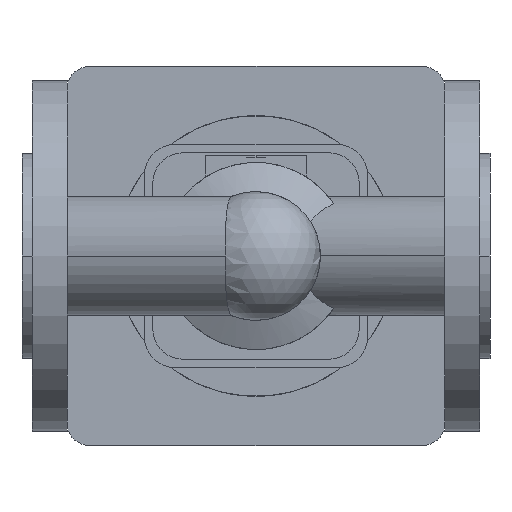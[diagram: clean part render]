
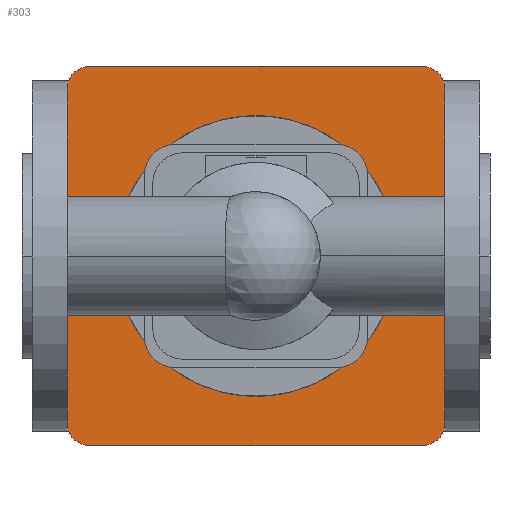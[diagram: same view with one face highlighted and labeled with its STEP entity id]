
A CAD part, front view. The second image highlights one B-rep face of the part: STEP entity #303.
In plain terms, the highlighted planar face has unit normal (0, -1, 0).
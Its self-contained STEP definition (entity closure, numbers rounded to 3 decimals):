
#303 = ADVANCED_FACE( '', ( #729, #730 ), #731, .F. );
#729 = FACE_OUTER_BOUND( '', #1181, .T. );
#730 = FACE_BOUND( '', #1182, .T. );
#731 = PLANE( '', #1183 );
#1181 = EDGE_LOOP( '', ( #2652, #2653, #2654, #2655, #2656, #2657, #2658, #2659 ) );
#1182 = EDGE_LOOP( '', ( #2660, #2661 ) );
#1183 = AXIS2_PLACEMENT_3D( '', #2662, #2663, #2664 );
#2652 = ORIENTED_EDGE( '', *, *, #3283, .F. );
#2653 = ORIENTED_EDGE( '', *, *, #3284, .F. );
#2654 = ORIENTED_EDGE( '', *, *, #3285, .F. );
#2655 = ORIENTED_EDGE( '', *, *, #3286, .F. );
#2656 = ORIENTED_EDGE( '', *, *, #3287, .F. );
#2657 = ORIENTED_EDGE( '', *, *, #3288, .F. );
#2658 = ORIENTED_EDGE( '', *, *, #3289, .F. );
#2659 = ORIENTED_EDGE( '', *, *, #3290, .F. );
#2660 = ORIENTED_EDGE( '', *, *, #3198, .F. );
#2661 = ORIENTED_EDGE( '', *, *, #3291, .F. );
#2662 = CARTESIAN_POINT( '', ( 100., 582., 0. ) );
#2663 = DIRECTION( '', ( 0., 1., 0. ) );
#2664 = DIRECTION( '', ( 0., 0., 1. ) );
#3198 = EDGE_CURVE( '', #3943, #3946, #3947, .T. );
#3283 = EDGE_CURVE( '', #4090, #4091, #4092, .T. );
#3284 = EDGE_CURVE( '', #4093, #4090, #4094, .T. );
#3285 = EDGE_CURVE( '', #4095, #4093, #4096, .T. );
#3286 = EDGE_CURVE( '', #4097, #4095, #4098, .T. );
#3287 = EDGE_CURVE( '', #4099, #4097, #4100, .T. );
#3288 = EDGE_CURVE( '', #4101, #4099, #4102, .T. );
#3289 = EDGE_CURVE( '', #4103, #4101, #4104, .T. );
#3290 = EDGE_CURVE( '', #4091, #4103, #4105, .T. );
#3291 = EDGE_CURVE( '', #3946, #3943, #4106, .T. );
#3943 = VERTEX_POINT( '', #5444 );
#3946 = VERTEX_POINT( '', #5448 );
#3947 = CIRCLE( '', #5449, 40. );
#4090 = VERTEX_POINT( '', #5647 );
#4091 = VERTEX_POINT( '', #5648 );
#4092 = CIRCLE( '', #5649, 10. );
#4093 = VERTEX_POINT( '', #5650 );
#4094 = LINE( '', #5651, #5652 );
#4095 = VERTEX_POINT( '', #5653 );
#4096 = CIRCLE( '', #5654, 10. );
#4097 = VERTEX_POINT( '', #5655 );
#4098 = LINE( '', #5656, #5657 );
#4099 = VERTEX_POINT( '', #5658 );
#4100 = CIRCLE( '', #5659, 10. );
#4101 = VERTEX_POINT( '', #5660 );
#4102 = LINE( '', #5661, #5662 );
#4103 = VERTEX_POINT( '', #5663 );
#4104 = CIRCLE( '', #5664, 10. );
#4105 = LINE( '', #5665, #5666 );
#4106 = CIRCLE( '', #5667, 40. );
#5444 = CARTESIAN_POINT( '', ( 60., 582., 0. ) );
#5448 = CARTESIAN_POINT( '', ( 140., 582., 0. ) );
#5449 = AXIS2_PLACEMENT_3D( '', #6404, #6405, #6406 );
#5647 = CARTESIAN_POINT( '', ( 19., 582., 71. ) );
#5648 = CARTESIAN_POINT( '', ( 29., 582., 81. ) );
#5649 = AXIS2_PLACEMENT_3D( '', #6549, #6550, #6551 );
#5650 = CARTESIAN_POINT( '', ( 19., 582., -71. ) );
#5651 = CARTESIAN_POINT( '', ( 19., 582., -71. ) );
#5652 = VECTOR( '', #6552, 1. );
#5653 = CARTESIAN_POINT( '', ( 29., 582., -81. ) );
#5654 = AXIS2_PLACEMENT_3D( '', #6553, #6554, #6555 );
#5655 = CARTESIAN_POINT( '', ( 171., 582., -81. ) );
#5656 = CARTESIAN_POINT( '', ( 171., 582., -81. ) );
#5657 = VECTOR( '', #6556, 1. );
#5658 = CARTESIAN_POINT( '', ( 181., 582., -71. ) );
#5659 = AXIS2_PLACEMENT_3D( '', #6557, #6558, #6559 );
#5660 = CARTESIAN_POINT( '', ( 181., 582., 71. ) );
#5661 = CARTESIAN_POINT( '', ( 181., 582., 71. ) );
#5662 = VECTOR( '', #6560, 1. );
#5663 = CARTESIAN_POINT( '', ( 171., 582., 81. ) );
#5664 = AXIS2_PLACEMENT_3D( '', #6561, #6562, #6563 );
#5665 = CARTESIAN_POINT( '', ( 29., 582., 81. ) );
#5666 = VECTOR( '', #6564, 1. );
#5667 = AXIS2_PLACEMENT_3D( '', #6565, #6566, #6567 );
#6404 = CARTESIAN_POINT( '', ( 100., 582., 0. ) );
#6405 = DIRECTION( '', ( 0., -1., 0. ) );
#6406 = DIRECTION( '', ( -1., 0., 0. ) );
#6549 = CARTESIAN_POINT( '', ( 29., 582., 71. ) );
#6550 = DIRECTION( '', ( 0., 1., 0. ) );
#6551 = DIRECTION( '', ( -1., 0., 0. ) );
#6552 = DIRECTION( '', ( 0., 0., 1. ) );
#6553 = CARTESIAN_POINT( '', ( 29., 582., -71. ) );
#6554 = DIRECTION( '', ( 0., 1., 0. ) );
#6555 = DIRECTION( '', ( 0., 0., -1. ) );
#6556 = DIRECTION( '', ( -1., 0., 0. ) );
#6557 = CARTESIAN_POINT( '', ( 171., 582., -71. ) );
#6558 = DIRECTION( '', ( 0., 1., 0. ) );
#6559 = DIRECTION( '', ( 1., 0., 0. ) );
#6560 = DIRECTION( '', ( 0., 0., -1. ) );
#6561 = CARTESIAN_POINT( '', ( 171., 582., 71. ) );
#6562 = DIRECTION( '', ( 0., 1., 0. ) );
#6563 = DIRECTION( '', ( 0., 0., 1. ) );
#6564 = DIRECTION( '', ( 1., 0., 0. ) );
#6565 = CARTESIAN_POINT( '', ( 100., 582., 0. ) );
#6566 = DIRECTION( '', ( 0., -1., 0. ) );
#6567 = DIRECTION( '', ( -1., 0., 0. ) );
